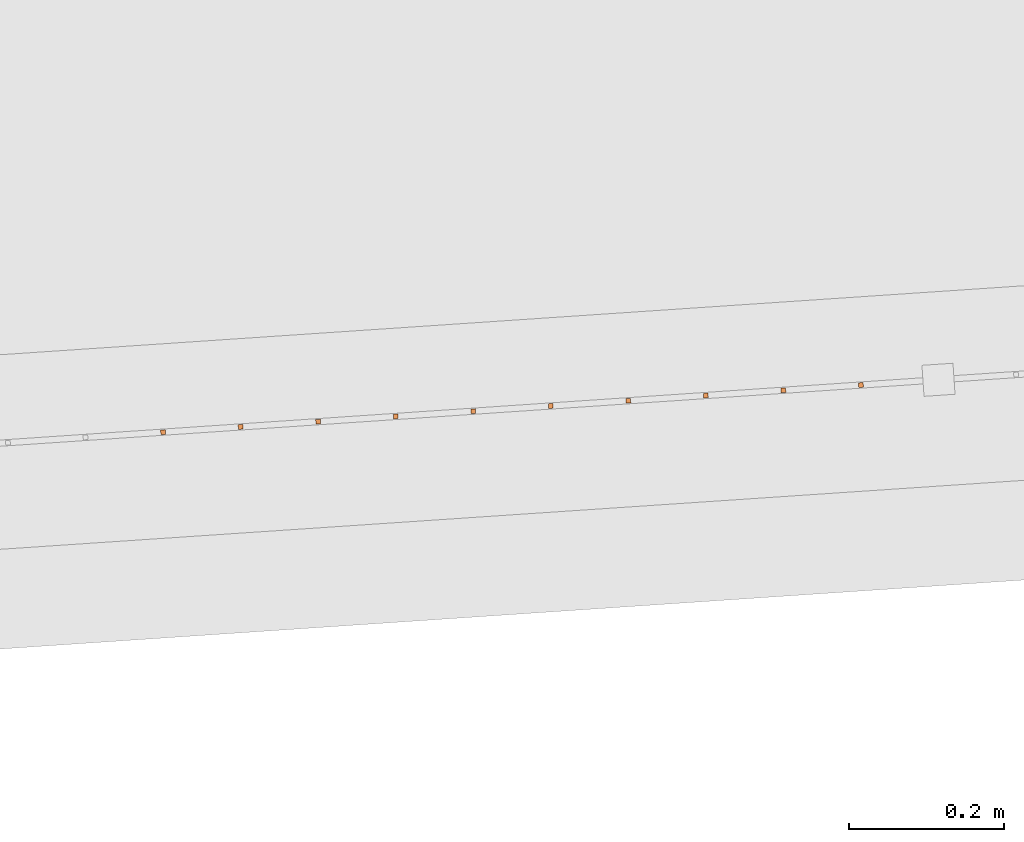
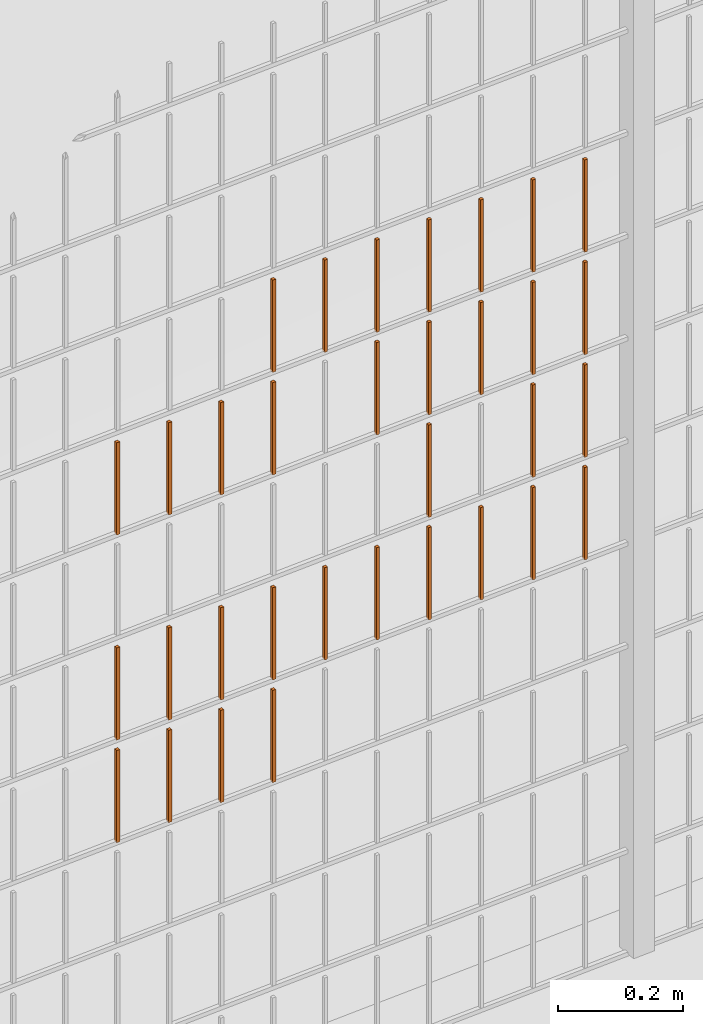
# One storey, part 152 of 1809: 33 proxies, 1 element without a shape of its own.
"""IFC2X3 building model written with IfcOpenShell, lengths in millimetres."""

from ifc_helpers import new_model, entity, si_unit, converted_unit, derived_unit, money_unit, direction, frame, origin_with_axes, place, context, subcontext, project, spatial, faceted_brep, source, transform, mapped, material, type_object, element, aggregate, save


model = new_model("IFC2X3")

# Units and contexts
model_context = context("Model", 3, precision=0.01, world=origin_with_axes(), true_north=direction((0.0, 1.0)))
body_context = subcontext(model_context, "Body", "Model", "MODEL_VIEW")
ifc_project = project(units=[si_unit("LENGTHUNIT", "METRE", prefix="MILLI"), si_unit("AREAUNIT", "SQUARE_METRE"), si_unit("VOLUMEUNIT", "CUBIC_METRE"), converted_unit("PLANEANGLEUNIT", "DEGREE", entity("IfcPlaneAngleMeasure", 0.0174532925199), si_unit("PLANEANGLEUNIT", "RADIAN"), dimensions=[0, 0, 0, 0, 0, 0, 0]), si_unit("SOLIDANGLEUNIT", "STERADIAN"), money_unit("EUR"), converted_unit("TIMEUNIT", "Year", entity("IfcTimeMeasure", 31556926.0), si_unit("TIMEUNIT", "SECOND"), dimensions=[0, 0, 1, 0, 0, 0, 0]), si_unit("MASSUNIT", "GRAM", prefix="KILO"), si_unit("THERMODYNAMICTEMPERATUREUNIT", "DEGREE_CELSIUS"), si_unit("LUMINOUSINTENSITYUNIT", "LUMEN"), si_unit("ENERGYUNIT", "JOULE", prefix="MEGA"), derived_unit("THERMALCONDUCTANCEUNIT", [(si_unit("POWERUNIT", "WATT"), 1), (si_unit("LENGTHUNIT", "METRE"), -1), (si_unit("THERMODYNAMICTEMPERATUREUNIT", "KELVIN"), -1)]), derived_unit("SPECIFICHEATCAPACITYUNIT", [(si_unit("ENERGYUNIT", "JOULE"), 1), (si_unit("MASSUNIT", "GRAM", prefix="KILO"), -1), (si_unit("THERMODYNAMICTEMPERATUREUNIT", "KELVIN"), -1)]), derived_unit("MASSDENSITYUNIT", [(si_unit("MASSUNIT", "GRAM", prefix="KILO"), 1), (si_unit("VOLUMEUNIT", "CUBIC_METRE"), -1)])], contexts=[model_context])

# Site, building, storey
site_placement = place(None, origin_with_axes())
site = spatial("IfcSite", under=ifc_project, at=site_placement, Name="Politse- ja Piirivalveameti ning Päästeameti ühishoone", CompositionType="ELEMENT")
building_placement = place(site_placement, origin_with_axes())
building = spatial("IfcBuilding", under=site, at=building_placement, Name="Politse- ja Piirivalveameti ning Päästeameti ühishoone", CompositionType="ELEMENT")
storey_placement = place(building_placement, origin_with_axes())
storey = spatial("IfcBuildingStorey", under=building, at=storey_placement, Name="Esimene korrus", CompositionType="ELEMENT", Elevation=0.0)

# Proxies
building_element_proxy_type_1 = type_object("IfcBuildingElementProxyType", Name="Railing Type", PredefinedType="NOTDEFINED")
proxy_1_placement = place(storey_placement, frame((89252.001212, -29183.4766571, 203.661247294), z_axis=(0.0, 0.0, 1.0), x_axis=(1.0, 0.0, 0.0)))
proxy_1 = element("IfcBuildingElementProxy", 1, at=proxy_1_placement, inside=storey, type_object=building_element_proxy_type_1, Name="PIIRDEAED")
ifc_material = material(Name="ET-03_Raud")
building_element_proxy_type_2 = type_object("IfcBuildingElementProxyType", Name="IfcBuildingElementProxy", PredefinedType="NOTDEFINED")
shared_shape_1 = source(origin_with_axes(), body_context, "Body", "Brep", [
    faceted_brep([(3.0, 3.0, -0.000752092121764), (-3.0, 3.0, -0.000752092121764), (-3.0, 3.0, 179.99926046), (3.0, 3.0, 179.99926046), (3.0, -3.0, 0.000752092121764), (-3.0, -3.0, 0.000752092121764), (-3.0, -3.0, 180.000764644), (3.0, -3.0, 180.000764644)], [[[0, 1, 2, 3]], [[0, 4, 5, 1]], [[1, 5, 6, 2]], [[3, 2, 6, 7]], [[4, 0, 3, 7]], [[5, 4, 7, 6]]]),
])
proxy_2_placement = place(proxy_1_placement, frame((-82339.0660394, -22859.4679361, 806.545161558), z_axis=(0.0, 0.0, 1.0), x_axis=(1.0, 0.0, 0.0)))
proxy_2 = element("IfcBuildingElementProxy", 2, at=proxy_2_placement, type_object=building_element_proxy_type_2, material=ifc_material, Name="BALUSTER - 001", context=body_context, shape_type="MappedRepresentation", body=[
    mapped(shared_shape_1, transform((0.0, 0.0, 0.0), x_axis=(-0.0673926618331, 0.997726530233, 0.0), y_axis=(-0.997726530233, -0.0673926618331, 0.0), z_axis=(0.0, 0.0, 1.0))),
])
proxy_3_placement = place(proxy_1_placement, frame((-82339.0660394, -22859.4679361, 1206.54516156), z_axis=(0.0, 0.0, 1.0), x_axis=(1.0, 0.0, 0.0)))
proxy_3 = element("IfcBuildingElementProxy", 3, at=proxy_3_placement, type_object=building_element_proxy_type_2, material=ifc_material, Name="BALUSTER - 001", context=body_context, shape_type="MappedRepresentation", body=[
    mapped(shared_shape_1, transform((0.0, 0.0, 0.0), x_axis=(-0.0673926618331, 0.997726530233, 0.0), y_axis=(-0.997726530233, -0.0673926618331, 0.0), z_axis=(0.0, 0.0, 1.0))),
])
proxy_4_placement = place(proxy_1_placement, frame((-83037.4746106, -22906.6427994, 1206.3696734), z_axis=(0.0, 0.0, 1.0), x_axis=(1.0, 0.0, 0.0)))
proxy_4 = element("IfcBuildingElementProxy", 4, at=proxy_4_placement, type_object=building_element_proxy_type_2, material=ifc_material, Name="BALUSTER - 001", context=body_context, shape_type="MappedRepresentation", body=[
    mapped(shared_shape_1, transform((0.0, 0.0, 0.0), x_axis=(-0.0673926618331, 0.997726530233, 0.0), y_axis=(-0.997726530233, -0.0673926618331, 0.0), z_axis=(0.0, 0.0, 1.0))),
])
shared_shape_2 = source(origin_with_axes(), body_context, "Body", "Brep", [
    faceted_brep([(3.0, 3.0, -0.000752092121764), (-3.0, 3.0, -0.000752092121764), (-3.0, 3.0, 179.99926046), (3.0, 3.0, 179.99926046), (3.0, -3.0, 0.000752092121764), (-3.0, -3.0, 0.000752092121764), (-3.0, -3.0, 180.000764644), (3.0, -3.0, 180.000764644)], [[[0, 1, 2, 3]], [[0, 4, 5, 1]], [[1, 5, 6, 2]], [[3, 2, 6, 7]], [[4, 0, 3, 7]], [[5, 4, 7, 6]]]),
])
proxy_5_placement = place(proxy_1_placement, frame((-82339.0660394, -22859.4679361, 1406.54516156), z_axis=(0.0, 0.0, 1.0), x_axis=(1.0, 0.0, 0.0)))
proxy_5 = element("IfcBuildingElementProxy", 5, at=proxy_5_placement, type_object=building_element_proxy_type_2, material=ifc_material, Name="BALUSTER - 001", context=body_context, shape_type="MappedRepresentation", body=[
    mapped(shared_shape_2, transform((0.0, 0.0, 0.0), x_axis=(-0.0673926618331, 0.997726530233, 0.0), y_axis=(-0.997726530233, -0.0673926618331, 0.0), z_axis=(0.0, 0.0, 1.0))),
])
shared_shape_3 = source(origin_with_axes(), body_context, "Body", "Brep", [
    faceted_brep([(3.0, 3.0, -0.000752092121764), (-3.0, 3.0, -0.000752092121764), (-3.0, 3.0, 179.99926046), (3.0, 3.0, 179.99926046), (3.0, -3.0, 0.000752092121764), (-3.0, -3.0, 0.000752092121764), (-3.0, -3.0, 180.000764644), (3.0, -3.0, 180.000764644)], [[[0, 1, 2, 3]], [[0, 4, 5, 1]], [[1, 5, 6, 2]], [[3, 2, 6, 7]], [[4, 0, 3, 7]], [[5, 4, 7, 6]]]),
])
proxy_6_placement = place(proxy_1_placement, frame((-83137.2472636, -22913.3820656, 606.344603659), z_axis=(0.0, 0.0, 1.0), x_axis=(1.0, 0.0, 0.0)))
proxy_6 = element("IfcBuildingElementProxy", 6, at=proxy_6_placement, type_object=building_element_proxy_type_2, material=ifc_material, Name="BALUSTER - 001", context=body_context, shape_type="MappedRepresentation", body=[
    mapped(shared_shape_3, transform((0.0, 0.0, 0.0), x_axis=(-0.0673926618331, 0.997726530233, 0.0), y_axis=(-0.997726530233, -0.0673926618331, 0.0), z_axis=(0.0, 0.0, 1.0))),
])
shared_shape_4 = source(origin_with_axes(), body_context, "Body", "Brep", [
    faceted_brep([(3.0, 3.0, -0.000752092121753), (-3.0, 3.0, -0.000752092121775), (-3.0, 3.0, 179.99926046), (3.0, 3.0, 179.99926046), (3.0, -3.0, 0.000752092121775), (-3.0, -3.0, 0.000752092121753), (-3.0, -3.0, 180.000764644), (3.0, -3.0, 180.000764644)], [[[0, 1, 2, 3]], [[0, 4, 5, 1]], [[1, 5, 6, 2]], [[3, 2, 6, 7]], [[4, 0, 3, 7]], [[5, 4, 7, 6]]]),
])
proxy_7_placement = place(proxy_1_placement, frame((-83037.4746106, -22906.6427994, 806.369673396), z_axis=(0.0, 0.0, 1.0), x_axis=(1.0, 0.0, 0.0)))
proxy_7 = element("IfcBuildingElementProxy", 7, at=proxy_7_placement, type_object=building_element_proxy_type_2, material=ifc_material, Name="BALUSTER - 001", context=body_context, shape_type="MappedRepresentation", body=[
    mapped(shared_shape_4, transform((0.0, 0.0, 0.0), x_axis=(-0.0673926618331, 0.997726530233, 0.0), y_axis=(-0.997726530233, -0.0673926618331, 0.0), z_axis=(0.0, 0.0, 1.0))),
])
shared_shape_5 = source(origin_with_axes(), body_context, "Body", "Brep", [
    faceted_brep([(3.0, 3.0, -0.000752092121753), (-3.0, 3.0, -0.000752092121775), (-3.0, 3.0, 179.99926046), (3.0, 3.0, 179.99926046), (3.0, -3.0, 0.000752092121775), (-3.0, -3.0, 0.000752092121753), (-3.0, -3.0, 180.000764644), (3.0, -3.0, 180.000764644)], [[[0, 1, 2, 3]], [[0, 4, 5, 1]], [[1, 5, 6, 2]], [[3, 2, 6, 7]], [[4, 0, 3, 7]], [[5, 4, 7, 6]]]),
])
proxy_8_placement = place(proxy_1_placement, frame((-82837.9293045, -22893.1642671, 806.419812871), z_axis=(0.0, 0.0, 1.0), x_axis=(1.0, 0.0, 0.0)))
proxy_8 = element("IfcBuildingElementProxy", 8, at=proxy_8_placement, type_object=building_element_proxy_type_2, material=ifc_material, Name="BALUSTER - 001", context=body_context, shape_type="MappedRepresentation", body=[
    mapped(shared_shape_5, transform((0.0, 0.0, 0.0), x_axis=(-0.0673926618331, 0.997726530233, 0.0), y_axis=(-0.997726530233, -0.0673926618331, 0.0), z_axis=(0.0, 0.0, 1.0))),
])
shared_shape_6 = source(origin_with_axes(), body_context, "Body", "Brep", [
    faceted_brep([(3.0, 3.0, -0.000752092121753), (-3.0, 3.0, -0.000752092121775), (-3.0, 3.0, 179.99926046), (3.0, 3.0, 179.99926046), (3.0, -3.0, 0.000752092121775), (-3.0, -3.0, 0.000752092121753), (-3.0, -3.0, 180.000764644), (3.0, -3.0, 180.000764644)], [[[0, 1, 2, 3]], [[0, 4, 5, 1]], [[1, 5, 6, 2]], [[3, 2, 6, 7]], [[4, 0, 3, 7]], [[5, 4, 7, 6]]]),
])
proxy_9_placement = place(proxy_1_placement, frame((-82837.9293045, -22893.1642671, 1206.41981287), z_axis=(0.0, 0.0, 1.0), x_axis=(1.0, 0.0, 0.0)))
proxy_9 = element("IfcBuildingElementProxy", 9, at=proxy_9_placement, type_object=building_element_proxy_type_2, material=ifc_material, Name="BALUSTER - 001", context=body_context, shape_type="MappedRepresentation", body=[
    mapped(shared_shape_6, transform((0.0, 0.0, 0.0), x_axis=(-0.0673926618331, 0.997726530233, 0.0), y_axis=(-0.997726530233, -0.0673926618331, 0.0), z_axis=(0.0, 0.0, 1.0))),
])
shared_shape_7 = source(origin_with_axes(), body_context, "Body", "Brep", [
    faceted_brep([(3.0, 3.0, -0.000752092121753), (-3.0, 3.0, -0.000752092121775), (-3.0, 3.0, 179.99926046), (3.0, 3.0, 179.99926046), (3.0, -3.0, 0.000752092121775), (-3.0, -3.0, 0.000752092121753), (-3.0, -3.0, 180.000764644), (3.0, -3.0, 180.000764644)], [[[0, 1, 2, 3]], [[0, 4, 5, 1]], [[1, 5, 6, 2]], [[3, 2, 6, 7]], [[4, 0, 3, 7]], [[5, 4, 7, 6]]]),
])
proxy_10_placement = place(proxy_1_placement, frame((-82837.9293045, -22893.1642671, 1406.41981287), z_axis=(0.0, 0.0, 1.0), x_axis=(1.0, 0.0, 0.0)))
proxy_10 = element("IfcBuildingElementProxy", 10, at=proxy_10_placement, type_object=building_element_proxy_type_2, material=ifc_material, Name="BALUSTER - 001", context=body_context, shape_type="MappedRepresentation", body=[
    mapped(shared_shape_7, transform((0.0, 0.0, 0.0), x_axis=(-0.0673926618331, 0.997726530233, 0.0), y_axis=(-0.997726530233, -0.0673926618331, 0.0), z_axis=(0.0, 0.0, 1.0))),
])
shared_shape_8 = source(origin_with_axes(), body_context, "Body", "Brep", [
    faceted_brep([(3.0, 3.0, -0.000752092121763), (-3.0, 3.0, -0.000752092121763), (-3.0, 3.0, 179.99926046), (3.0, 3.0, 179.99926046), (3.0, -3.0, 0.000752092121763), (-3.0, -3.0, 0.000752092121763), (-3.0, -3.0, 180.000764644), (3.0, -3.0, 180.000764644)], [[[0, 1, 2, 3]], [[0, 4, 5, 1]], [[1, 5, 6, 2]], [[3, 2, 6, 7]], [[4, 0, 3, 7]], [[5, 4, 7, 6]]]),
])
proxy_11_placement = place(proxy_1_placement, frame((-83137.2472636, -22913.3820656, 806.344603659), z_axis=(0.0, 0.0, 1.0), x_axis=(1.0, 0.0, 0.0)))
proxy_11 = element("IfcBuildingElementProxy", 11, at=proxy_11_placement, type_object=building_element_proxy_type_2, material=ifc_material, Name="BALUSTER - 001", context=body_context, shape_type="MappedRepresentation", body=[
    mapped(shared_shape_8, transform((0.0, 0.0, 0.0), x_axis=(-0.0673926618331, 0.997726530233, 0.0), y_axis=(-0.997726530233, -0.0673926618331, 0.0), z_axis=(0.0, 0.0, 1.0))),
])
shared_shape_9 = source(origin_with_axes(), body_context, "Body", "Brep", [
    faceted_brep([(3.0, 3.0, -0.000752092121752), (-3.0, 3.0, -0.000752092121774), (-3.0, 3.0, 179.99926046), (3.0, 3.0, 179.99926046), (3.0, -3.0, 0.000752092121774), (-3.0, -3.0, 0.000752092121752), (-3.0, -3.0, 180.000764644), (3.0, -3.0, 180.000764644)], [[[0, 1, 2, 3]], [[0, 4, 5, 1]], [[1, 5, 6, 2]], [[3, 2, 6, 7]], [[4, 0, 3, 7]], [[5, 4, 7, 6]]]),
])
proxy_12_placement = place(proxy_1_placement, frame((-82738.1566515, -22886.4250009, 806.444882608), z_axis=(0.0, 0.0, 1.0), x_axis=(1.0, 0.0, 0.0)))
proxy_12 = element("IfcBuildingElementProxy", 12, at=proxy_12_placement, type_object=building_element_proxy_type_2, material=ifc_material, Name="BALUSTER - 001", context=body_context, shape_type="MappedRepresentation", body=[
    mapped(shared_shape_9, transform((0.0, 0.0, 0.0), x_axis=(-0.0673926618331, 0.997726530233, 0.0), y_axis=(-0.997726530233, -0.0673926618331, 0.0), z_axis=(0.0, 0.0, 1.0))),
])
shared_shape_10 = source(origin_with_axes(), body_context, "Body", "Brep", [
    faceted_brep([(3.0, 3.0, -0.000752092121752), (-3.0, 3.0, -0.000752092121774), (-3.0, 3.0, 179.99926046), (3.0, 3.0, 179.99926046), (3.0, -3.0, 0.000752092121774), (-3.0, -3.0, 0.000752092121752), (-3.0, -3.0, 180.000764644), (3.0, -3.0, 180.000764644)], [[[0, 1, 2, 3]], [[0, 4, 5, 1]], [[1, 5, 6, 2]], [[3, 2, 6, 7]], [[4, 0, 3, 7]], [[5, 4, 7, 6]]]),
])
proxy_13_placement = place(proxy_1_placement, frame((-82239.2933864, -22852.72867, 806.570231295), z_axis=(0.0, 0.0, 1.0), x_axis=(1.0, 0.0, 0.0)))
proxy_13 = element("IfcBuildingElementProxy", 13, at=proxy_13_placement, type_object=building_element_proxy_type_2, material=ifc_material, Name="BALUSTER - 001", context=body_context, shape_type="MappedRepresentation", body=[
    mapped(shared_shape_10, transform((0.0, 0.0, 0.0), x_axis=(-0.0673926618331, 0.997726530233, 0.0), y_axis=(-0.997726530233, -0.0673926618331, 0.0), z_axis=(0.0, 0.0, 1.0))),
])
shared_shape_11 = source(origin_with_axes(), body_context, "Body", "Brep", [
    faceted_brep([(3.0, 3.0, -0.000752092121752), (-3.0, 3.0, -0.000752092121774), (-3.0, 3.0, 179.99926046), (3.0, 3.0, 179.99926046), (3.0, -3.0, 0.000752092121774), (-3.0, -3.0, 0.000752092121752), (-3.0, -3.0, 180.000764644), (3.0, -3.0, 180.000764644)], [[[0, 1, 2, 3]], [[0, 4, 5, 1]], [[1, 5, 6, 2]], [[3, 2, 6, 7]], [[4, 0, 3, 7]], [[5, 4, 7, 6]]]),
])
proxy_14_placement = place(proxy_1_placement, frame((-82937.7019576, -22899.9035332, 806.394743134), z_axis=(0.0, 0.0, 1.0), x_axis=(1.0, 0.0, 0.0)))
proxy_14 = element("IfcBuildingElementProxy", 14, at=proxy_14_placement, type_object=building_element_proxy_type_2, material=ifc_material, Name="BALUSTER - 001", context=body_context, shape_type="MappedRepresentation", body=[
    mapped(shared_shape_11, transform((0.0, 0.0, 0.0), x_axis=(-0.0673926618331, 0.997726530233, 0.0), y_axis=(-0.997726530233, -0.0673926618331, 0.0), z_axis=(0.0, 0.0, 1.0))),
])
proxy_15_placement = place(proxy_1_placement, frame((-82239.2933864, -22852.72867, 1206.5702313), z_axis=(0.0, 0.0, 1.0), x_axis=(1.0, 0.0, 0.0)))
proxy_15 = element("IfcBuildingElementProxy", 15, at=proxy_15_placement, type_object=building_element_proxy_type_2, material=ifc_material, Name="BALUSTER - 001", context=body_context, shape_type="MappedRepresentation", body=[
    mapped(shared_shape_11, transform((0.0, 0.0, 0.0), x_axis=(-0.0673926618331, 0.997726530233, 0.0), y_axis=(-0.997726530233, -0.0673926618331, 0.0), z_axis=(0.0, 0.0, 1.0))),
])
proxy_16_placement = place(proxy_1_placement, frame((-82538.6113455, -22872.9464685, 1206.49502208), z_axis=(0.0, 0.0, 1.0), x_axis=(1.0, 0.0, 0.0)))
proxy_16 = element("IfcBuildingElementProxy", 16, at=proxy_16_placement, type_object=building_element_proxy_type_2, material=ifc_material, Name="BALUSTER - 001", context=body_context, shape_type="MappedRepresentation", body=[
    mapped(shared_shape_11, transform((0.0, 0.0, 0.0), x_axis=(-0.0673926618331, 0.997726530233, 0.0), y_axis=(-0.997726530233, -0.0673926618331, 0.0), z_axis=(0.0, 0.0, 1.0))),
])
shared_shape_12 = source(origin_with_axes(), body_context, "Body", "Brep", [
    faceted_brep([(3.0, 3.0, -0.000752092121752), (-3.0, 3.0, -0.000752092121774), (-3.0, 3.0, 179.99926046), (3.0, 3.0, 179.99926046), (3.0, -3.0, 0.000752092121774), (-3.0, -3.0, 0.000752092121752), (-3.0, -3.0, 180.000764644), (3.0, -3.0, 180.000764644)], [[[0, 1, 2, 3]], [[0, 4, 5, 1]], [[1, 5, 6, 2]], [[3, 2, 6, 7]], [[4, 0, 3, 7]], [[5, 4, 7, 6]]]),
])
proxy_17_placement = place(proxy_1_placement, frame((-83137.2472636, -22913.3820656, 1206.34460366), z_axis=(0.0, 0.0, 1.0), x_axis=(1.0, 0.0, 0.0)))
proxy_17 = element("IfcBuildingElementProxy", 17, at=proxy_17_placement, type_object=building_element_proxy_type_2, material=ifc_material, Name="BALUSTER - 001", context=body_context, shape_type="MappedRepresentation", body=[
    mapped(shared_shape_12, transform((0.0, 0.0, 0.0), x_axis=(-0.0673926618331, 0.997726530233, 0.0), y_axis=(-0.997726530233, -0.0673926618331, 0.0), z_axis=(0.0, 0.0, 1.0))),
])
shared_shape_13 = source(origin_with_axes(), body_context, "Body", "Brep", [
    faceted_brep([(3.0, 3.0, -0.000752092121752), (-3.0, 3.0, -0.000752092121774), (-3.0, 3.0, 179.99926046), (3.0, 3.0, 179.99926046), (3.0, -3.0, 0.000752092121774), (-3.0, -3.0, 0.000752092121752), (-3.0, -3.0, 180.000764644), (3.0, -3.0, 180.000764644)], [[[0, 1, 2, 3]], [[0, 4, 5, 1]], [[1, 5, 6, 2]], [[3, 2, 6, 7]], [[4, 0, 3, 7]], [[5, 4, 7, 6]]]),
])
proxy_18_placement = place(proxy_1_placement, frame((-82538.6113455, -22872.9464685, 1006.49502208), z_axis=(0.0, 0.0, 1.0), x_axis=(1.0, 0.0, 0.0)))
proxy_18 = element("IfcBuildingElementProxy", 18, at=proxy_18_placement, type_object=building_element_proxy_type_2, material=ifc_material, Name="BALUSTER - 001", context=body_context, shape_type="MappedRepresentation", body=[
    mapped(shared_shape_13, transform((0.0, 0.0, 0.0), x_axis=(-0.0673926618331, 0.997726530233, 0.0), y_axis=(-0.997726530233, -0.0673926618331, 0.0), z_axis=(0.0, 0.0, 1.0))),
])
shared_shape_14 = source(origin_with_axes(), body_context, "Body", "Brep", [
    faceted_brep([(3.0, 3.0, -0.000752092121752), (-3.0, 3.0, -0.000752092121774), (-3.0, 3.0, 179.99926046), (3.0, 3.0, 179.99926046), (3.0, -3.0, 0.000752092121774), (-3.0, -3.0, 0.000752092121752), (-3.0, -3.0, 180.000764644), (3.0, -3.0, 180.000764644)], [[[0, 1, 2, 3]], [[0, 4, 5, 1]], [[1, 5, 6, 2]], [[3, 2, 6, 7]], [[4, 0, 3, 7]], [[5, 4, 7, 6]]]),
])
proxy_19_placement = place(proxy_1_placement, frame((-82239.2933864, -22852.72867, 1406.5702313), z_axis=(0.0, 0.0, 1.0), x_axis=(1.0, 0.0, 0.0)))
proxy_19 = element("IfcBuildingElementProxy", 19, at=proxy_19_placement, type_object=building_element_proxy_type_2, material=ifc_material, Name="BALUSTER - 001", context=body_context, shape_type="MappedRepresentation", body=[
    mapped(shared_shape_14, transform((0.0, 0.0, 0.0), x_axis=(-0.0673926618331, 0.997726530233, 0.0), y_axis=(-0.997726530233, -0.0673926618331, 0.0), z_axis=(0.0, 0.0, 1.0))),
])
proxy_20_placement = place(proxy_1_placement, frame((-82538.6113455, -22872.9464685, 1406.49502208), z_axis=(0.0, 0.0, 1.0), x_axis=(1.0, 0.0, 0.0)))
proxy_20 = element("IfcBuildingElementProxy", 20, at=proxy_20_placement, type_object=building_element_proxy_type_2, material=ifc_material, Name="BALUSTER - 001", context=body_context, shape_type="MappedRepresentation", body=[
    mapped(shared_shape_14, transform((0.0, 0.0, 0.0), x_axis=(-0.0673926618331, 0.997726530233, 0.0), y_axis=(-0.997726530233, -0.0673926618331, 0.0), z_axis=(0.0, 0.0, 1.0))),
])
shared_shape_15 = source(origin_with_axes(), body_context, "Body", "Brep", [
    faceted_brep([(3.0, 3.0, -0.000752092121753), (-3.0, 3.0, -0.000752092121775), (-3.0, 3.0, 179.99926046), (3.0, 3.0, 179.99926046), (3.0, -3.0, 0.000752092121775), (-3.0, -3.0, 0.000752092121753), (-3.0, -3.0, 180.000764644), (3.0, -3.0, 180.000764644)], [[[0, 1, 2, 3]], [[0, 4, 5, 1]], [[1, 5, 6, 2]], [[3, 2, 6, 7]], [[4, 0, 3, 7]], [[5, 4, 7, 6]]]),
])
proxy_21_placement = place(proxy_1_placement, frame((-83037.4746106, -22906.6427994, 606.369673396), z_axis=(0.0, 0.0, 1.0), x_axis=(1.0, 0.0, 0.0)))
proxy_21 = element("IfcBuildingElementProxy", 21, at=proxy_21_placement, type_object=building_element_proxy_type_2, material=ifc_material, Name="BALUSTER - 001", context=body_context, shape_type="MappedRepresentation", body=[
    mapped(shared_shape_15, transform((0.0, 0.0, 0.0), x_axis=(-0.0673926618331, 0.997726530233, 0.0), y_axis=(-0.997726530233, -0.0673926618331, 0.0), z_axis=(0.0, 0.0, 1.0))),
])
shared_shape_16 = source(origin_with_axes(), body_context, "Body", "Brep", [
    faceted_brep([(3.0, 3.0, -0.000752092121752), (-3.0, 3.0, -0.000752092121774), (-3.0, 3.0, 179.99926046), (3.0, 3.0, 179.99926046), (3.0, -3.0, 0.000752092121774), (-3.0, -3.0, 0.000752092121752), (-3.0, -3.0, 180.000764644), (3.0, -3.0, 180.000764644)], [[[0, 1, 2, 3]], [[0, 4, 5, 1]], [[1, 5, 6, 2]], [[3, 2, 6, 7]], [[4, 0, 3, 7]], [[5, 4, 7, 6]]]),
])
proxy_22_placement = place(proxy_1_placement, frame((-82837.9293045, -22893.1642671, 606.419812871), z_axis=(0.0, 0.0, 1.0), x_axis=(1.0, 0.0, 0.0)))
proxy_22 = element("IfcBuildingElementProxy", 22, at=proxy_22_placement, type_object=building_element_proxy_type_2, material=ifc_material, Name="BALUSTER - 001", context=body_context, shape_type="MappedRepresentation", body=[
    mapped(shared_shape_16, transform((0.0, 0.0, 0.0), x_axis=(-0.0673926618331, 0.997726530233, 0.0), y_axis=(-0.997726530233, -0.0673926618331, 0.0), z_axis=(0.0, 0.0, 1.0))),
])
proxy_23_placement = place(proxy_1_placement, frame((-82937.7019576, -22899.9035332, 606.394743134), z_axis=(0.0, 0.0, 1.0), x_axis=(1.0, 0.0, 0.0)))
proxy_23 = element("IfcBuildingElementProxy", 23, at=proxy_23_placement, type_object=building_element_proxy_type_2, material=ifc_material, Name="BALUSTER - 001", context=body_context, shape_type="MappedRepresentation", body=[
    mapped(shared_shape_16, transform((0.0, 0.0, 0.0), x_axis=(-0.0673926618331, 0.997726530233, 0.0), y_axis=(-0.997726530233, -0.0673926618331, 0.0), z_axis=(0.0, 0.0, 1.0))),
])
shared_shape_17 = source(origin_with_axes(), body_context, "Body", "Brep", [
    faceted_brep([(3.0, 3.0, -0.000752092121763), (-3.0, 3.0, -0.000752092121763), (-3.0, 3.0, 179.99926046), (3.0, 3.0, 179.99926046), (3.0, -3.0, 0.000752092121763), (-3.0, -3.0, 0.000752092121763), (-3.0, -3.0, 180.000764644), (3.0, -3.0, 180.000764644)], [[[0, 1, 2, 3]], [[0, 4, 5, 1]], [[1, 5, 6, 2]], [[3, 2, 6, 7]], [[4, 0, 3, 7]], [[5, 4, 7, 6]]]),
])
proxy_24_placement = place(proxy_1_placement, frame((-82438.8386924, -22866.2072023, 806.520091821), z_axis=(0.0, 0.0, 1.0), x_axis=(1.0, 0.0, 0.0)))
proxy_24 = element("IfcBuildingElementProxy", 24, at=proxy_24_placement, type_object=building_element_proxy_type_2, material=ifc_material, Name="BALUSTER - 001", context=body_context, shape_type="MappedRepresentation", body=[
    mapped(shared_shape_17, transform((0.0, 0.0, 0.0), x_axis=(-0.0673926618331, 0.997726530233, 0.0), y_axis=(-0.997726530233, -0.0673926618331, 0.0), z_axis=(0.0, 0.0, 1.0))),
])
shared_shape_18 = source(origin_with_axes(), body_context, "Body", "Brep", [
    faceted_brep([(3.0, 3.0, -0.000752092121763), (-3.0, 3.0, -0.000752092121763), (-3.0, 3.0, 179.99926046), (3.0, 3.0, 179.99926046), (3.0, -3.0, 0.000752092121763), (-3.0, -3.0, 0.000752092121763), (-3.0, -3.0, 180.000764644), (3.0, -3.0, 180.000764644)], [[[0, 1, 2, 3]], [[0, 4, 5, 1]], [[1, 5, 6, 2]], [[3, 2, 6, 7]], [[4, 0, 3, 7]], [[5, 4, 7, 6]]]),
])
proxy_25_placement = place(proxy_1_placement, frame((-82538.6113455, -22872.9464685, 806.495022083), z_axis=(0.0, 0.0, 1.0), x_axis=(1.0, 0.0, 0.0)))
proxy_25 = element("IfcBuildingElementProxy", 25, at=proxy_25_placement, type_object=building_element_proxy_type_2, material=ifc_material, Name="BALUSTER - 001", context=body_context, shape_type="MappedRepresentation", body=[
    mapped(shared_shape_18, transform((0.0, 0.0, 0.0), x_axis=(-0.0673926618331, 0.997726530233, 0.0), y_axis=(-0.997726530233, -0.0673926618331, 0.0), z_axis=(0.0, 0.0, 1.0))),
])
shared_shape_19 = source(origin_with_axes(), body_context, "Body", "Brep", [
    faceted_brep([(3.0, 3.0, -0.000752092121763), (-3.0, 3.0, -0.000752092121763), (-3.0, 3.0, 179.99926046), (3.0, 3.0, 179.99926046), (3.0, -3.0, 0.000752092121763), (-3.0, -3.0, 0.000752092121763), (-3.0, -3.0, 180.000764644), (3.0, -3.0, 180.000764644)], [[[0, 1, 2, 3]], [[0, 4, 5, 1]], [[1, 5, 6, 2]], [[3, 2, 6, 7]], [[4, 0, 3, 7]], [[5, 4, 7, 6]]]),
])
proxy_26_placement = place(proxy_1_placement, frame((-82638.3839985, -22879.6857347, 806.469952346), z_axis=(0.0, 0.0, 1.0), x_axis=(1.0, 0.0, 0.0)))
proxy_26 = element("IfcBuildingElementProxy", 26, at=proxy_26_placement, type_object=building_element_proxy_type_2, material=ifc_material, Name="BALUSTER - 001", context=body_context, shape_type="MappedRepresentation", body=[
    mapped(shared_shape_19, transform((0.0, 0.0, 0.0), x_axis=(-0.0673926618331, 0.997726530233, 0.0), y_axis=(-0.997726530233, -0.0673926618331, 0.0), z_axis=(0.0, 0.0, 1.0))),
])
shared_shape_20 = source(origin_with_axes(), body_context, "Body", "Brep", [
    faceted_brep([(3.0, 3.0, -0.000752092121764), (-3.0, 3.0, -0.000752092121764), (-3.0, 3.0, 179.99926046), (3.0, 3.0, 179.99926046), (3.0, -3.0, 0.000752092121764), (-3.0, -3.0, 0.000752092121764), (-3.0, -3.0, 180.000764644), (3.0, -3.0, 180.000764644)], [[[0, 1, 2, 3]], [[0, 4, 5, 1]], [[1, 5, 6, 2]], [[3, 2, 6, 7]], [[4, 0, 3, 7]], [[5, 4, 7, 6]]]),
])
proxy_27_placement = place(proxy_1_placement, frame((-82438.8386924, -22866.2072023, 1206.52009182), z_axis=(0.0, 0.0, 1.0), x_axis=(1.0, 0.0, 0.0)))
proxy_27 = element("IfcBuildingElementProxy", 27, at=proxy_27_placement, type_object=building_element_proxy_type_2, material=ifc_material, Name="BALUSTER - 001", context=body_context, shape_type="MappedRepresentation", body=[
    mapped(shared_shape_20, transform((0.0, 0.0, 0.0), x_axis=(-0.0673926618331, 0.997726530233, 0.0), y_axis=(-0.997726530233, -0.0673926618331, 0.0), z_axis=(0.0, 0.0, 1.0))),
])
shared_shape_21 = source(origin_with_axes(), body_context, "Body", "Brep", [
    faceted_brep([(3.0, 3.0, -0.000752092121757), (-3.0, 3.0, -0.000752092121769), (-3.00000000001, 3.0, 179.99926046), (2.99999999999, 3.0, 179.99926046), (3.0, -3.0, 0.000752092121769), (-3.0, -3.0, 0.000752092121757), (-3.00000000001, -3.0, 180.000764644), (2.99999999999, -3.0, 180.000764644)], [[[0, 1, 2, 3]], [[0, 4, 5, 1]], [[1, 5, 6, 2]], [[3, 2, 6, 7]], [[4, 0, 3, 7]], [[5, 4, 7, 6]]]),
])
proxy_28_placement = place(proxy_1_placement, frame((-82239.2933864, -22852.72867, 1006.5702313), z_axis=(0.0, 0.0, 1.0), x_axis=(1.0, 0.0, 0.0)))
proxy_28 = element("IfcBuildingElementProxy", 28, at=proxy_28_placement, type_object=building_element_proxy_type_2, material=ifc_material, Name="BALUSTER - 001", context=body_context, shape_type="MappedRepresentation", body=[
    mapped(shared_shape_21, transform((0.0, 0.0, 0.0), x_axis=(-0.0673926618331, 0.997726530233, 0.0), y_axis=(-0.997726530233, -0.0673926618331, 0.0), z_axis=(0.0, 0.0, 1.0))),
])
shared_shape_22 = source(origin_with_axes(), body_context, "Body", "Brep", [
    faceted_brep([(3.0, 3.0, -0.000752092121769), (-3.0, 3.0, -0.000752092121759), (-3.00000000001, 3.0, 179.99926046), (2.99999999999, 3.0, 179.99926046), (3.0, -3.0, 0.000752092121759), (-3.0, -3.0, 0.000752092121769), (-3.00000000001, -3.0, 180.000764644), (2.99999999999, -3.0, 180.000764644)], [[[0, 1, 2, 3]], [[0, 4, 5, 1]], [[1, 5, 6, 2]], [[3, 2, 6, 7]], [[4, 0, 3, 7]], [[5, 4, 7, 6]]]),
])
proxy_29_placement = place(proxy_1_placement, frame((-82339.0660394, -22859.4679361, 1006.54516156), z_axis=(0.0, 0.0, 1.0), x_axis=(1.0, 0.0, 0.0)))
proxy_29 = element("IfcBuildingElementProxy", 29, at=proxy_29_placement, type_object=building_element_proxy_type_2, material=ifc_material, Name="BALUSTER - 001", context=body_context, shape_type="MappedRepresentation", body=[
    mapped(shared_shape_22, transform((0.0, 0.0, 0.0), x_axis=(-0.0673926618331, 0.997726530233, 0.0), y_axis=(-0.997726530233, -0.0673926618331, 0.0), z_axis=(0.0, 0.0, 1.0))),
])
shared_shape_23 = source(origin_with_axes(), body_context, "Body", "Brep", [
    faceted_brep([(3.0, 3.0, -0.000752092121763), (-3.0, 3.0, -0.000752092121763), (-3.0, 3.0, 179.99926046), (3.0, 3.0, 179.99926046), (3.0, -3.0, 0.000752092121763), (-3.0, -3.0, 0.000752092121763), (-3.0, -3.0, 180.000764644), (3.0, -3.0, 180.000764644)], [[[0, 1, 2, 3]], [[0, 4, 5, 1]], [[1, 5, 6, 2]], [[3, 2, 6, 7]], [[4, 0, 3, 7]], [[5, 4, 7, 6]]]),
])
proxy_30_placement = place(proxy_1_placement, frame((-82638.3839985, -22879.6857347, 1206.46995235), z_axis=(0.0, 0.0, 1.0), x_axis=(1.0, 0.0, 0.0)))
proxy_30 = element("IfcBuildingElementProxy", 30, at=proxy_30_placement, type_object=building_element_proxy_type_2, material=ifc_material, Name="BALUSTER - 001", context=body_context, shape_type="MappedRepresentation", body=[
    mapped(shared_shape_23, transform((0.0, 0.0, 0.0), x_axis=(-0.0673926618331, 0.997726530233, 0.0), y_axis=(-0.997726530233, -0.0673926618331, 0.0), z_axis=(0.0, 0.0, 1.0))),
])
shared_shape_24 = source(origin_with_axes(), body_context, "Body", "Brep", [
    faceted_brep([(3.0, 3.0, -0.000752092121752), (-3.0, 3.0, -0.000752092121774), (-3.0, 3.0, 179.99926046), (3.0, 3.0, 179.99926046), (3.0, -3.0, 0.000752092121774), (-3.0, -3.0, 0.000752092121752), (-3.0, -3.0, 180.000764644), (3.0, -3.0, 180.000764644)], [[[0, 1, 2, 3]], [[0, 4, 5, 1]], [[1, 5, 6, 2]], [[3, 2, 6, 7]], [[4, 0, 3, 7]], [[5, 4, 7, 6]]]),
])
proxy_31_placement = place(proxy_1_placement, frame((-82937.7019576, -22899.9035332, 1206.39474313), z_axis=(0.0, 0.0, 1.0), x_axis=(1.0, 0.0, 0.0)))
proxy_31 = element("IfcBuildingElementProxy", 31, at=proxy_31_placement, type_object=building_element_proxy_type_2, material=ifc_material, Name="BALUSTER - 001", context=body_context, shape_type="MappedRepresentation", body=[
    mapped(shared_shape_24, transform((0.0, 0.0, 0.0), x_axis=(-0.0673926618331, 0.997726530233, 0.0), y_axis=(-0.997726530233, -0.0673926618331, 0.0), z_axis=(0.0, 0.0, 1.0))),
])
shared_shape_25 = source(origin_with_axes(), body_context, "Body", "Brep", [
    faceted_brep([(3.0, 3.0, -0.000752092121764), (-3.0, 3.0, -0.000752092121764), (-3.0, 3.0, 179.99926046), (3.0, 3.0, 179.99926046), (3.0, -3.0, 0.000752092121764), (-3.0, -3.0, 0.000752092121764), (-3.0, -3.0, 180.000764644), (3.0, -3.0, 180.000764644)], [[[0, 1, 2, 3]], [[0, 4, 5, 1]], [[1, 5, 6, 2]], [[3, 2, 6, 7]], [[4, 0, 3, 7]], [[5, 4, 7, 6]]]),
])
proxy_32_placement = place(proxy_1_placement, frame((-82438.8386924, -22866.2072023, 1406.52009182), z_axis=(0.0, 0.0, 1.0), x_axis=(1.0, 0.0, 0.0)))
proxy_32 = element("IfcBuildingElementProxy", 32, at=proxy_32_placement, type_object=building_element_proxy_type_2, material=ifc_material, Name="BALUSTER - 001", context=body_context, shape_type="MappedRepresentation", body=[
    mapped(shared_shape_25, transform((0.0, 0.0, 0.0), x_axis=(-0.0673926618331, 0.997726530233, 0.0), y_axis=(-0.997726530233, -0.0673926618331, 0.0), z_axis=(0.0, 0.0, 1.0))),
])
shared_shape_26 = source(origin_with_axes(), body_context, "Body", "Brep", [
    faceted_brep([(3.0, 3.0, -0.000752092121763), (-3.0, 3.0, -0.000752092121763), (-3.0, 3.0, 179.99926046), (3.0, 3.0, 179.99926046), (3.0, -3.0, 0.000752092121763), (-3.0, -3.0, 0.000752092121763), (-3.0, -3.0, 180.000764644), (3.0, -3.0, 180.000764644)], [[[0, 1, 2, 3]], [[0, 4, 5, 1]], [[1, 5, 6, 2]], [[3, 2, 6, 7]], [[4, 0, 3, 7]], [[5, 4, 7, 6]]]),
])
proxy_33_placement = place(proxy_1_placement, frame((-82638.3839985, -22879.6857347, 1406.46995235), z_axis=(0.0, 0.0, 1.0), x_axis=(1.0, 0.0, 0.0)))
proxy_33 = element("IfcBuildingElementProxy", 33, at=proxy_33_placement, type_object=building_element_proxy_type_2, material=ifc_material, Name="BALUSTER - 001", context=body_context, shape_type="MappedRepresentation", body=[
    mapped(shared_shape_26, transform((0.0, 0.0, 0.0), x_axis=(-0.0673926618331, 0.997726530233, 0.0), y_axis=(-0.997726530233, -0.0673926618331, 0.0), z_axis=(0.0, 0.0, 1.0))),
])
shared_shape_27 = source(origin_with_axes(), body_context, "Body", "Brep", [
    faceted_brep([(3.0, 3.0, -0.000752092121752), (-3.0, 3.0, -0.000752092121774), (-3.0, 3.0, 179.99926046), (3.0, 3.0, 179.99926046), (3.0, -3.0, 0.000752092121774), (-3.0, -3.0, 0.000752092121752), (-3.0, -3.0, 180.000764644), (3.0, -3.0, 180.000764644)], [[[0, 1, 2, 3]], [[0, 4, 5, 1]], [[1, 5, 6, 2]], [[3, 2, 6, 7]], [[4, 0, 3, 7]], [[5, 4, 7, 6]]]),
])
proxy_34_placement = place(proxy_1_placement, frame((-82738.1566515, -22886.4250009, 1406.44488261), z_axis=(0.0, 0.0, 1.0), x_axis=(1.0, 0.0, 0.0)))
proxy_34 = element("IfcBuildingElementProxy", 34, at=proxy_34_placement, type_object=building_element_proxy_type_2, material=ifc_material, Name="BALUSTER - 001", context=body_context, shape_type="MappedRepresentation", body=[
    mapped(shared_shape_27, transform((0.0, 0.0, 0.0), x_axis=(-0.0673926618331, 0.997726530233, 0.0), y_axis=(-0.997726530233, -0.0673926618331, 0.0), z_axis=(0.0, 0.0, 1.0))),
])
aggregate(proxy_1, [proxy_22, proxy_23, proxy_21, proxy_6, proxy_13, proxy_2, proxy_24, proxy_25, proxy_26, proxy_12, proxy_8, proxy_14, proxy_7, proxy_11, proxy_28, proxy_29, proxy_18, proxy_15, proxy_3, proxy_27, proxy_16, proxy_30, proxy_9, proxy_31, proxy_4, proxy_17, proxy_19, proxy_5, proxy_32, proxy_20, proxy_33, proxy_34, proxy_10])

save(model, "model.ifc")
